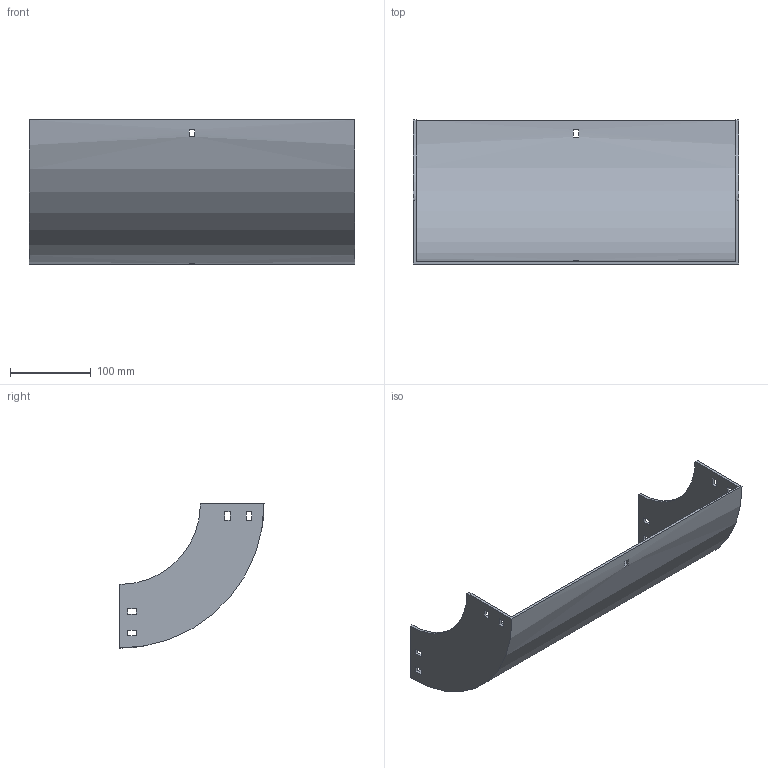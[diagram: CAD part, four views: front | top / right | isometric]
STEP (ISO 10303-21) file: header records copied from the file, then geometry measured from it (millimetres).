
FILE_DESCRIPTION (( 'STEP AP214' ), '1' );
FILE_NAME ('30B1C400.step', '2025-02-21T09:50:58', ( '' ), ( '' ), 'SwSTEP 2.0', 'SolidWorks 2023', '' );
FILE_SCHEMA (( 'AUTOMOTIVE_DESIGN' ));
Length unit declared in the file: millimetre
Products named in the file (1): 30B1C400
Bounding box: 404 x 179 x 179 mm (x, y, z)
Volume: 505675.1 mm3; surface area: 295131 mm2
Topology: 1 solids, 1 shells, 50 faces, 144 edges, 96 vertices
Faces by surface type: plane 46, cylinder 4
Entity records: 1687 total; most frequent: CARTESIAN_POINT 291, ORIENTED_EDGE 288, DIRECTION 262, EDGE_CURVE 144, VECTOR 128, LINE 128, VERTEX_POINT 96, EDGE_LOOP 70
